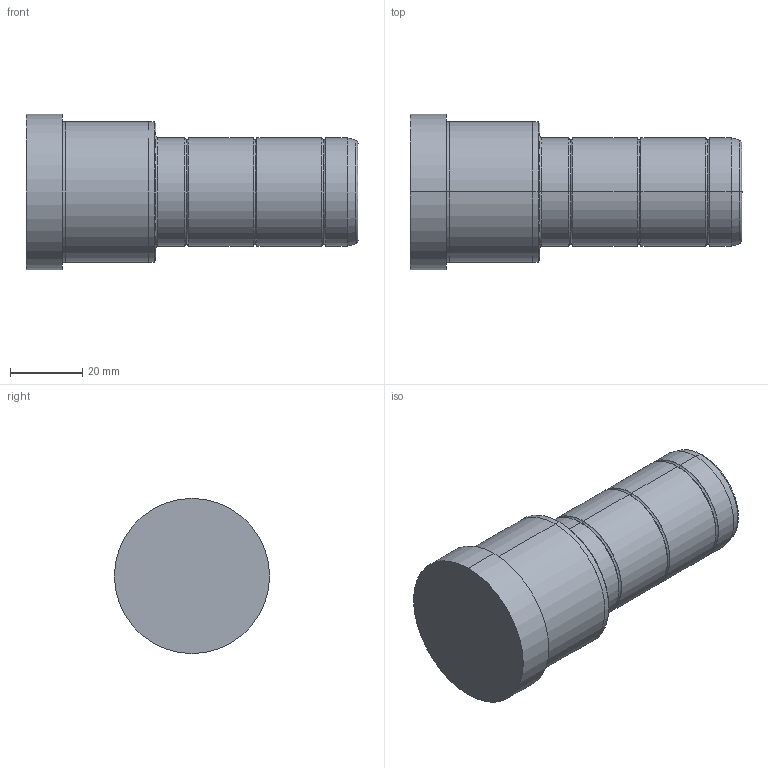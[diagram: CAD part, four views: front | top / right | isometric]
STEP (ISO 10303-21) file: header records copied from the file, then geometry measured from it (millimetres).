
FILE_DESCRIPTION( ( 'STEP AP203' ), '1' );
FILE_NAME( 'C:/Projects/D02 - 30x36x56.step', '2002-12-31T22:35:51', ( ' ' ), ( ' ' ), 'XStep 1.0', ' ', ' ' );
FILE_SCHEMA( ( 'CONFIG_CONTROL_DESIGN' ) );
Length unit declared in the file: metre
Products named in the file (1): 1
Bounding box: 92 x 43 x 43 mm (x, y, z)
Volume: 84952.5 mm3; surface area: 12726.3 mm2
Topology: 1 solids, 1 shells, 42 faces, 82 edges, 46 vertices
Faces by surface type: bspline 22, revolution 20
Entity records: 1325 total; most frequent: CARTESIAN_POINT 517, ORIENTED_EDGE 164, DIRECTION 134, EDGE_CURVE 82, AXIS2_PLACEMENT_3D 47, EDGE_LOOP 46, VERTEX_POINT 46, CIRCLE 46
